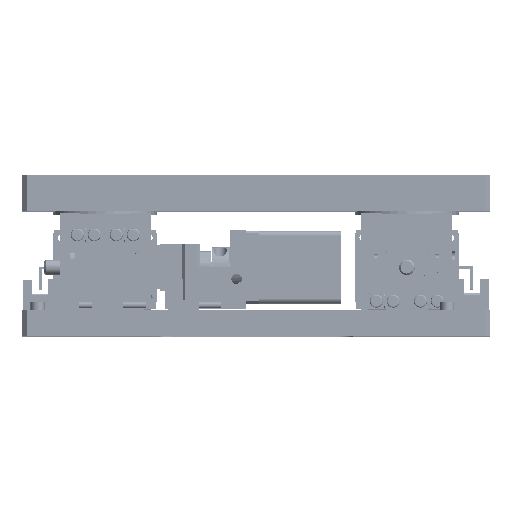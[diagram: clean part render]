
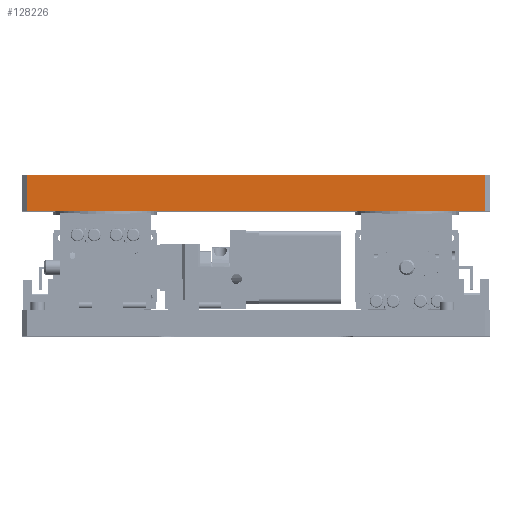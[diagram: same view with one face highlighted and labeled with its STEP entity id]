
A CAD part, top view. The second image highlights one B-rep face of the part: STEP entity #128226.
In plain terms, the highlighted planar face has unit normal (0, 0, 1).
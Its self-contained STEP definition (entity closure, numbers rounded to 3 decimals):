
#2573 = VERTEX_POINT ( 'NONE', #108716 ) ;
#3016 = ORIENTED_EDGE ( 'NONE', *, *, #123726, .F. ) ;
#3996 = ORIENTED_EDGE ( 'NONE', *, *, #76005, .T. ) ;
#10922 = ORIENTED_EDGE ( 'NONE', *, *, #16885, .F. ) ;
#14135 = CARTESIAN_POINT ( 'NONE',  ( -88., 62., 90. ) ) ;
#16572 = VERTEX_POINT ( 'NONE', #152603 ) ;
#16885 = EDGE_CURVE ( 'NONE', #139901, #2573, #82209, .T. ) ;
#20632 = DIRECTION ( 'NONE',  ( -1., 0., 0. ) ) ;
#27463 = DIRECTION ( 'NONE',  ( 1., 0., 0. ) ) ;
#29187 = CARTESIAN_POINT ( 'NONE',  ( 88., 48., 90. ) ) ;
#29260 = PLANE ( 'NONE',  #67697 ) ;
#31539 = VECTOR ( 'NONE', #169966, 1000. ) ;
#40246 = FACE_OUTER_BOUND ( 'NONE', #112091, .T. ) ;
#47456 = CARTESIAN_POINT ( 'NONE',  ( 88., 47.8, 90. ) ) ;
#51765 = ORIENTED_EDGE ( 'NONE', *, *, #165046, .T. ) ;
#55856 = CARTESIAN_POINT ( 'NONE',  ( -88., 47.8, 90. ) ) ;
#67697 = AXIS2_PLACEMENT_3D ( 'NONE', #71303, #69477, #27463 ) ;
#69477 = DIRECTION ( 'NONE',  ( 0., 0., -1. ) ) ;
#69571 = LINE ( 'NONE', #55856, #74167 ) ;
#70000 = VECTOR ( 'NONE', #20632, 1000. ) ;
#71303 = CARTESIAN_POINT ( 'NONE',  ( 88., 47.8, 90. ) ) ;
#74167 = VECTOR ( 'NONE', #96098, 1000. ) ;
#76005 = EDGE_CURVE ( 'NONE', #132894, #2573, #69571, .T. ) ;
#82209 = LINE ( 'NONE', #29187, #170391 ) ;
#89240 = CARTESIAN_POINT ( 'NONE',  ( 0., 62., 90. ) ) ;
#96098 = DIRECTION ( 'NONE',  ( 0., -1., 0. ) ) ;
#108716 = CARTESIAN_POINT ( 'NONE',  ( -88., 48., 90. ) ) ;
#112091 = EDGE_LOOP ( 'NONE', ( #3016, #51765, #3996, #10922 ) ) ;
#116928 = LINE ( 'NONE', #47456, #31539 ) ;
#123205 = CARTESIAN_POINT ( 'NONE',  ( 88., 48., 90. ) ) ;
#123726 = EDGE_CURVE ( 'NONE', #16572, #139901, #116928, .T. ) ;
#128226 = ADVANCED_FACE ( 'NONE', ( #40246 ), #29260, .F. ) ;
#132894 = VERTEX_POINT ( 'NONE', #14135 ) ;
#139901 = VERTEX_POINT ( 'NONE', #123205 ) ;
#152603 = CARTESIAN_POINT ( 'NONE',  ( 88., 62., 90. ) ) ;
#158670 = LINE ( 'NONE', #89240, #70000 ) ;
#165046 = EDGE_CURVE ( 'NONE', #16572, #132894, #158670, .T. ) ;
#166266 = DIRECTION ( 'NONE',  ( -1., 0., 0. ) ) ;
#169966 = DIRECTION ( 'NONE',  ( 0., -1., 0. ) ) ;
#170391 = VECTOR ( 'NONE', #166266, 1000. ) ;
